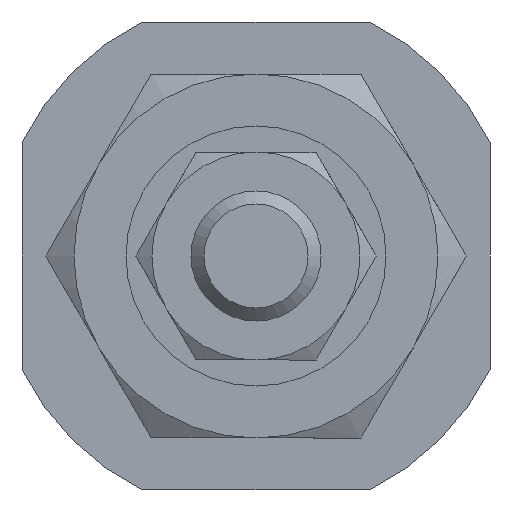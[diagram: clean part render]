
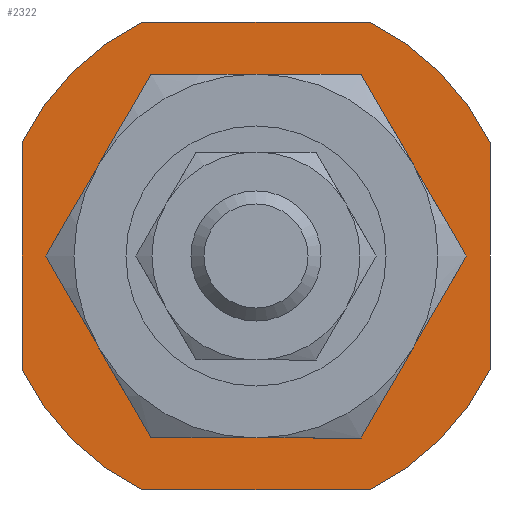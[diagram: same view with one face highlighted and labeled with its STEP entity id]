
A CAD part, left-side view. The second image highlights one B-rep face of the part: STEP entity #2322.
In plain terms, the highlighted planar face has unit normal (-1, 0, 0).
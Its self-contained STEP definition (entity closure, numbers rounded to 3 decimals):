
#1926=CARTESIAN_POINT('',(-150.899,-4.359,9.));
#1927=VERTEX_POINT('',#1926);
#1942=CARTESIAN_POINT('',(-150.899,4.359,9.0));
#1943=VERTEX_POINT('',#1942);
#1950=CARTESIAN_POINT('',(-150.899,-4.359,9.));
#1951=DIRECTION('',(0.0,1.0,0.0));
#1952=VECTOR('',#1951,8.718);
#1953=LINE('',#1950,#1952);
#1954=EDGE_CURVE('',#1927,#1943,#1953,.T.);
#2003=CARTESIAN_POINT('',(-150.899,4.359,-9.0));
#2004=VERTEX_POINT('',#2003);
#2019=CARTESIAN_POINT('',(-150.899,-4.359,-9.));
#2020=VERTEX_POINT('',#2019);
#2027=CARTESIAN_POINT('',(-150.899,4.359,-9.0));
#2028=DIRECTION('',(0.0,-1.0,0.0));
#2029=VECTOR('',#2028,8.718);
#2030=LINE('',#2027,#2029);
#2031=EDGE_CURVE('',#2004,#2020,#2030,.T.);
#2043=CARTESIAN_POINT('',(-150.899,-9.,-4.359));
#2044=VERTEX_POINT('',#2043);
#2059=CARTESIAN_POINT('',(-150.899,-9.,4.359));
#2060=VERTEX_POINT('',#2059);
#2067=CARTESIAN_POINT('',(-150.899,-9.,-4.359));
#2068=DIRECTION('',(0.0,0.0,1.0));
#2069=VECTOR('',#2068,8.718);
#2070=LINE('',#2067,#2069);
#2071=EDGE_CURVE('',#2044,#2060,#2070,.T.);
#2083=CARTESIAN_POINT('',(-150.899,9.,4.359));
#2084=VERTEX_POINT('',#2083);
#2099=CARTESIAN_POINT('',(-150.899,9.,-4.359));
#2100=VERTEX_POINT('',#2099);
#2107=CARTESIAN_POINT('',(-150.899,9.,4.359));
#2108=DIRECTION('',(0.0,0.0,-1.0));
#2109=VECTOR('',#2108,8.718);
#2110=LINE('',#2107,#2109);
#2111=EDGE_CURVE('',#2084,#2100,#2110,.T.);
#2232=CARTESIAN_POINT('',(-150.899,0.,0.0));
#2233=DIRECTION('',(-1.0,0.,0.0));
#2234=DIRECTION('',(0.,1.0,0.0));
#2235=AXIS2_PLACEMENT_3D('',#2232,#2233,#2234);
#2236=CIRCLE('',#2235,10.);
#2237=EDGE_CURVE('',#1943,#2084,#2236,.T.);
#2256=CARTESIAN_POINT('',(-150.899,0.,0.0));
#2257=DIRECTION('',(-1.0,0.,0.0));
#2258=DIRECTION('',(0.,1.0,0.0));
#2259=AXIS2_PLACEMENT_3D('',#2256,#2257,#2258);
#2260=CIRCLE('',#2259,10.);
#2261=EDGE_CURVE('',#2020,#2044,#2260,.T.);
#2272=CARTESIAN_POINT('',(-150.899,0.,0.0));
#2273=DIRECTION('',(-1.0,0.,0.0));
#2274=DIRECTION('',(0.,1.0,0.0));
#2275=AXIS2_PLACEMENT_3D('',#2272,#2273,#2274);
#2276=CIRCLE('',#2275,10.);
#2277=EDGE_CURVE('',#2100,#2004,#2276,.T.);
#2290=CARTESIAN_POINT('',(-150.899,7.5,0.0));
#2291=DIRECTION('',(-1.0,0.0,0.0));
#2292=DIRECTION('',(0.0,0.0,1.0));
#2293=AXIS2_PLACEMENT_3D('',#2290,#2291,#2292);
#2294=PLANE('',#2293);
#2295=ORIENTED_EDGE('',*,*,#1954,.T.);
#2296=ORIENTED_EDGE('',*,*,#2237,.T.);
#2297=ORIENTED_EDGE('',*,*,#2111,.T.);
#2298=ORIENTED_EDGE('',*,*,#2277,.T.);
#2299=ORIENTED_EDGE('',*,*,#2031,.T.);
#2300=ORIENTED_EDGE('',*,*,#2261,.T.);
#2301=ORIENTED_EDGE('',*,*,#2071,.T.);
#2302=CARTESIAN_POINT('',(-150.899,0.,0.0));
#2303=DIRECTION('',(-1.0,0.,0.0));
#2304=DIRECTION('',(0.,1.0,0.0));
#2305=AXIS2_PLACEMENT_3D('',#2302,#2303,#2304);
#2306=CIRCLE('',#2305,10.);
#2307=EDGE_CURVE('',#2060,#1927,#2306,.T.);
#2308=ORIENTED_EDGE('',*,*,#2307,.T.);
#2309=EDGE_LOOP('',(#2295,#2296,#2297,#2298,#2299,#2300,#2301,#2308));
#2310=FACE_OUTER_BOUND('',#2309,.T.);
#2311=CARTESIAN_POINT('',(-150.899,5.,0.0));
#2312=VERTEX_POINT('',#2311);
#2313=CARTESIAN_POINT('',(-150.899,0.,0.0));
#2314=DIRECTION('',(-1.0,0.,0.0));
#2315=DIRECTION('',(0.,1.0,0.0));
#2316=AXIS2_PLACEMENT_3D('',#2313,#2314,#2315);
#2317=CIRCLE('',#2316,5.);
#2318=EDGE_CURVE('',#2312,#2312,#2317,.T.);
#2319=ORIENTED_EDGE('',*,*,#2318,.F.);
#2320=EDGE_LOOP('',(#2319));
#2321=FACE_BOUND('',#2320,.T.);
#2322=ADVANCED_FACE('',(#2310,#2321),#2294,.T.);
